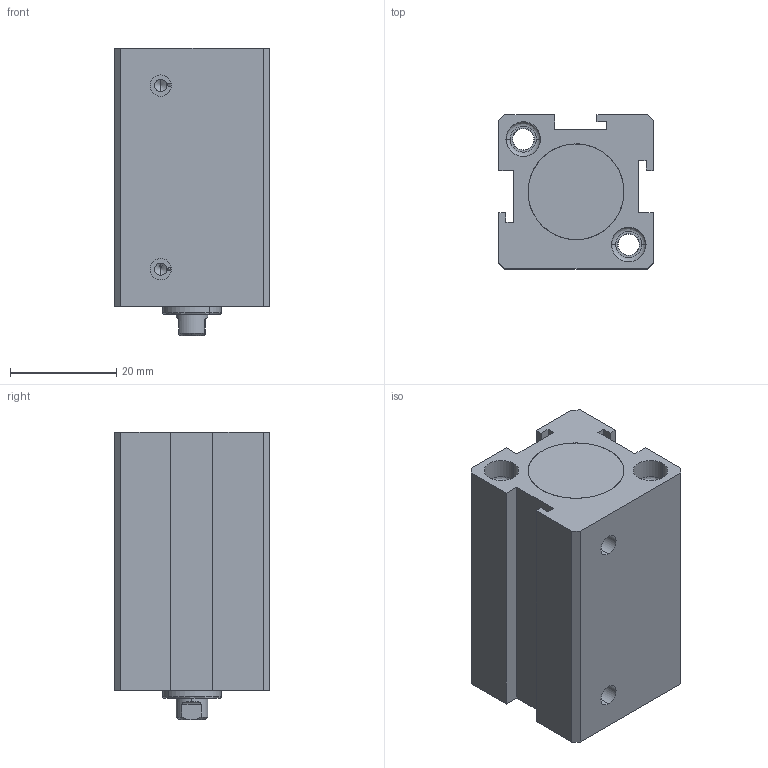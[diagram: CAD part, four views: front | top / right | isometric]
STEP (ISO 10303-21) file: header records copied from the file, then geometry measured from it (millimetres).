
FILE_DESCRIPTION (( 'STEP AP203' ), '1' );
FILE_NAME ('SDA-S-16X20CYLINDER.STEP', '2015-07-28T06:45:59', ( 'user' ), ( '' ), 'SwSTEP 2.0', 'SolidWorks 2013', '' );
FILE_SCHEMA (( 'CONFIG_CONTROL_DESIGN' ));
Length unit declared in the file: millimetre
Products named in the file (5): SDA-S 16X20 BORU; SDA-S 16 ARKA KAPAK; SDA-S 16X20 M尳 VE TOP; SDA-S 16 烰 KAPAK; SDA-S-16X20CYLINDER
Assembly tree (4 placements, depth 2):
  SDA-S-16X20CYLINDER
    SDA-S 16X20 BORU
    SDA-S 16 ARKA KAPAK
    SDA-S 16X20 M尳 VE TOP
    SDA-S 16 烰 KAPAK
Bounding box: 29 x 29 x 54 mm (x, y, z)
Volume: 31305.8 mm3; surface area: 16287.5 mm2
Topology: 4 solids, 6 shells, 177 faces, 408 edges, 262 vertices
Faces by surface type: cylinder 78, plane 64, cone 21, bspline 14
Entity records: 6936 total; most frequent: CARTESIAN_POINT 2384, DIRECTION 875, ORIENTED_EDGE 808, EDGE_CURVE 404, AXIS2_PLACEMENT_3D 347, VERTEX_POINT 262, EDGE_LOOP 214, VECTOR 181
